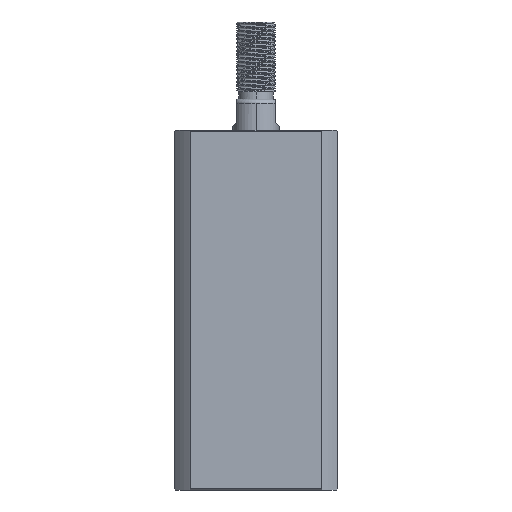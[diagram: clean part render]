
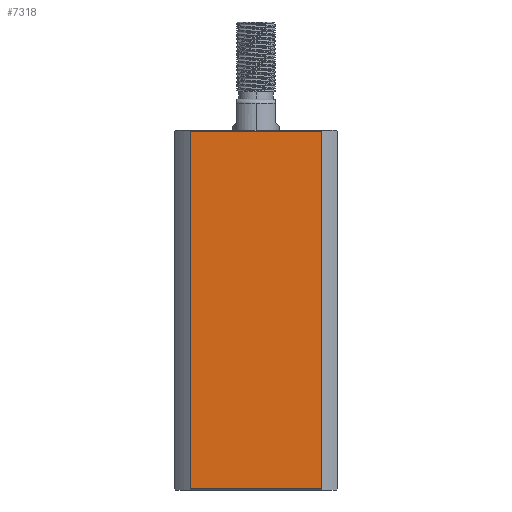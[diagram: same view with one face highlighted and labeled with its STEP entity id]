
A CAD part, left-side view. The second image highlights one B-rep face of the part: STEP entity #7318.
In plain terms, the highlighted planar face has unit normal (-1, 0, 0).
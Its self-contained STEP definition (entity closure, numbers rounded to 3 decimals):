
#863 = CARTESIAN_POINT ( 'NONE',  ( -21., 16.971, 0.3 ) ) ;
#1389 = PLANE ( 'NONE',  #10010 ) ;
#1862 = DIRECTION ( 'NONE',  ( 0., -1., 0. ) ) ;
#1935 = EDGE_CURVE ( 'NONE', #6863, #10821, #14070, .T. ) ;
#2048 = EDGE_CURVE ( 'NONE', #6863, #10445, #4806, .T. ) ;
#2571 = DIRECTION ( 'NONE',  ( 1., 0., 0. ) ) ;
#3122 = DIRECTION ( 'NONE',  ( 0., 0., 1. ) ) ;
#3509 = CARTESIAN_POINT ( 'NONE',  ( -21., 16.971, 92.7 ) ) ;
#3972 = CARTESIAN_POINT ( 'NONE',  ( -21., 21., 92.7 ) ) ;
#4191 = VECTOR ( 'NONE', #6078, 1000. ) ;
#4670 = ORIENTED_EDGE ( 'NONE', *, *, #2048, .F. ) ;
#4783 = CARTESIAN_POINT ( 'NONE',  ( -21., -16.971, 92.7 ) ) ;
#4806 = LINE ( 'NONE', #11232, #7535 ) ;
#5136 = DIRECTION ( 'NONE',  ( 0., 1., 0. ) ) ;
#5144 = LINE ( 'NONE', #3972, #14058 ) ;
#5730 = VERTEX_POINT ( 'NONE', #4783 ) ;
#6078 = DIRECTION ( 'NONE',  ( 0., 0., -1. ) ) ;
#6863 = VERTEX_POINT ( 'NONE', #863 ) ;
#7318 = ADVANCED_FACE ( 'NONE', ( #14184 ), #1389, .F. ) ;
#7327 = EDGE_CURVE ( 'NONE', #5730, #10821, #10347, .T. ) ;
#7535 = VECTOR ( 'NONE', #3122, 1000. ) ;
#7645 = ORIENTED_EDGE ( 'NONE', *, *, #7327, .F. ) ;
#9036 = EDGE_LOOP ( 'NONE', ( #4670, #10510, #7645, #11364 ) ) ;
#10010 = AXIS2_PLACEMENT_3D ( 'NONE', #10627, #2571, #10677 ) ;
#10347 = LINE ( 'NONE', #13042, #4191 ) ;
#10445 = VERTEX_POINT ( 'NONE', #3509 ) ;
#10510 = ORIENTED_EDGE ( 'NONE', *, *, #1935, .T. ) ;
#10627 = CARTESIAN_POINT ( 'NONE',  ( -21., 21., 93. ) ) ;
#10677 = DIRECTION ( 'NONE',  ( 0., 1., 0. ) ) ;
#10821 = VERTEX_POINT ( 'NONE', #12144 ) ;
#10954 = VECTOR ( 'NONE', #1862, 1000. ) ;
#11232 = CARTESIAN_POINT ( 'NONE',  ( -21., 16.971, -2907. ) ) ;
#11310 = EDGE_CURVE ( 'NONE', #5730, #10445, #5144, .T. ) ;
#11364 = ORIENTED_EDGE ( 'NONE', *, *, #11310, .T. ) ;
#12144 = CARTESIAN_POINT ( 'NONE',  ( -21., -16.971, 0.3 ) ) ;
#13042 = CARTESIAN_POINT ( 'NONE',  ( -21., -16.971, -2907. ) ) ;
#14058 = VECTOR ( 'NONE', #5136, 1000. ) ;
#14070 = LINE ( 'NONE', #14268, #10954 ) ;
#14184 = FACE_OUTER_BOUND ( 'NONE', #9036, .T. ) ;
#14268 = CARTESIAN_POINT ( 'NONE',  ( -21., 21., 0.3 ) ) ;
